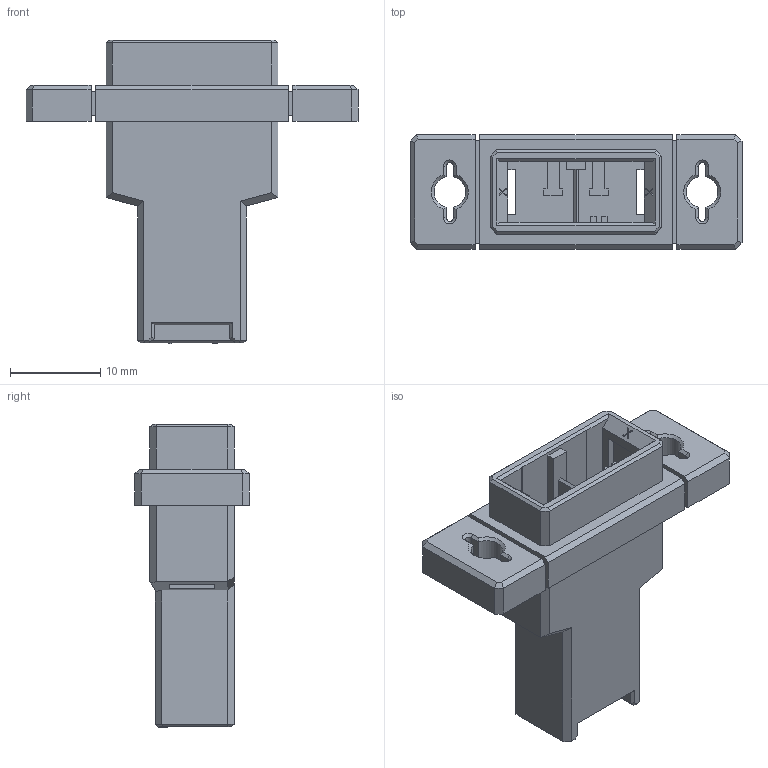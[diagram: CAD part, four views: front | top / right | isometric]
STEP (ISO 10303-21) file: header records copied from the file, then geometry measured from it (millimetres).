
FILE_DESCRIPTION (( 'STEP AP203' ), '1' );
FILE_NAME ('DK-3200S-02P.STEP', '2024-07-04T02:58:04', ( '' ), ( '' ), 'SwSTEP 2.0', 'SolidWorks 2024', '' );
FILE_SCHEMA (( 'CONFIG_CONTROL_DESIGN' ));
Length unit declared in the file: millimetre
Products named in the file (1): DK-3200S-02P
Bounding box: 36.83 x 12.7 x 33.7 mm (x, y, z)
Volume: 3968.3 mm3; surface area: 3914.1 mm2
Topology: 1 solids, 1 shells, 503 faces, 1360 edges, 886 vertices
Faces by surface type: plane 373, bspline 110, cylinder 12, cone 8
Entity records: 18733 total; most frequent: CARTESIAN_POINT 6786, ORIENTED_EDGE 2720, DIRECTION 1942, EDGE_CURVE 1360, VECTOR 1090, LINE 1090, VERTEX_POINT 886, EDGE_LOOP 538
